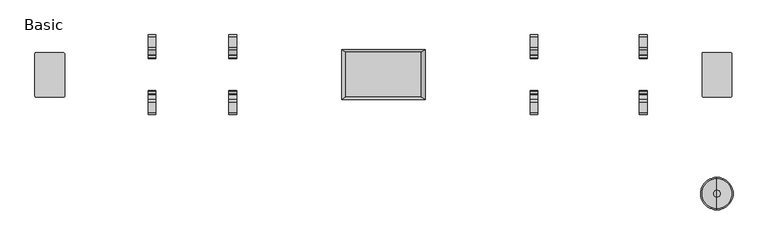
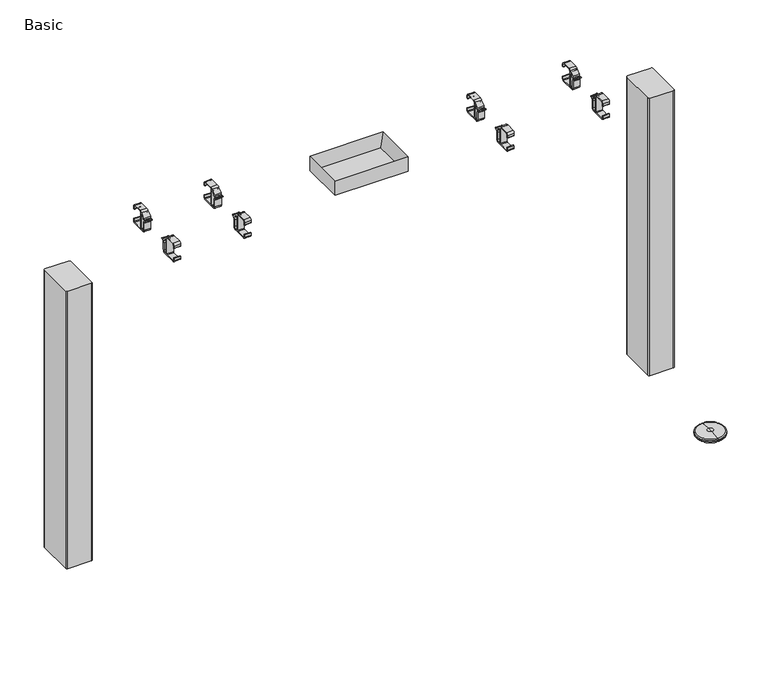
"""IFC4 building model written with IfcOpenShell, lengths in millimetres: furniture geometry, Steelcase Turnstone - Bivi - T Base : Basic."""

from ifc_helpers import new_model, si_unit, point, frame, frame_2d, origin, place, context, project, spatial, polyline, circle_curve, ellipse_curve, trimmed, segment, composite_curve, outline, extrude, faceted_brep, source, transform, mapped, element, save
from ifc_brep_helpers import plane_surface, cylinder_surface, revolved_surface, advanced_brep


def basic_1a66a6b6(model_context):
    return source(origin(), model_context, "Body", "SolidModel", [
        extrude(outline(composite_curve([segment(trimmed(circle_curve(frame_2d((524.0941449, -139.8062192)), 2.9999955), [point((527.0941404, -139.8062192))], [point((524.0941476, -142.8062147))], False, "CARTESIAN"), True, "CONTINUOUS"), segment(polyline([(524.0941476, -142.8062147), (470.2123335, -142.8062147)]), True, "CONTINUOUS"), segment(trimmed(circle_curve(frame_2d((470.2123308, -139.8062267)), 2.9999881), [point((470.2123335, -142.8062147))], [point((467.2123427, -139.8062267))], False, "CARTESIAN"), True, "CONTINUOUS"), segment(polyline([(467.2123427, -139.8062267), (467.2123427, -55.8062406)]), True, "CONTINUOUS"), segment(trimmed(circle_curve(frame_2d((470.2123507, -55.8062406)), 3.0000079), [point((467.2123427, -55.8062406))], [point((470.2123441, -52.8062327))], False, "CARTESIAN"), True, "CONTINUOUS"), segment(polyline([(470.2123441, -52.8062327), (524.094164, -52.8062327)]), True, "CONTINUOUS"), segment(trimmed(circle_curve(frame_2d((524.094164, -55.8062091)), 2.9999764), [point((524.094164, -52.8062327))], [point((527.0941404, -55.8062091))], False, "CARTESIAN"), True, "CONTINUOUS"), segment(polyline([(527.0941404, -55.8062091), (527.0941404, -139.8062192)]), True, "CONTINUOUS")], self_intersect=False)), frame((0.0, 0.0, 32.9997018), z_axis=(0.0, 0.0, 1.0), x_axis=(1.0, 0.0, 0.0)), (0.0, 0.0, 1.0), 673.400907),
        extrude(outline(composite_curve([segment(polyline([(-871.3931554, -140.227344), (-871.3931508, -55.5044158)]), True, "CONTINUOUS"), segment(trimmed(circle_curve(frame_2d((-868.6949196, -55.5044158)), 2.6982312), [point((-871.3931508, -55.5044158))], [point((-868.6949196, -52.8061846))], False, "CARTESIAN"), True, "CONTINUOUS"), segment(polyline([(-868.6949196, -52.8061846), (-815.7662966, -52.8061846)]), True, "CONTINUOUS"), segment(trimmed(circle_curve(frame_2d((-815.7662966, -57.1799025)), 4.3737179), [point((-815.7662966, -52.8061846))], [point((-811.3925787, -57.1799025))], False, "CARTESIAN"), True, "CONTINUOUS"), segment(polyline([(-811.3925787, -57.1799025), (-811.3925787, -140.352824)]), True, "CONTINUOUS"), segment(trimmed(circle_curve(frame_2d((-813.9932707, -140.2011003)), 2.605114), [point((-811.3925787, -140.352824))], [point((-813.9932707, -142.8062143))], False, "CARTESIAN"), True, "CONTINUOUS"), segment(polyline([(-813.9932707, -142.8062143), (-868.8142851, -142.8062143)]), True, "CONTINUOUS"), segment(trimmed(circle_curve(frame_2d((-868.8142851, -140.227344)), 2.5788703), [point((-868.8142851, -142.8062143))], [point((-871.3931554, -140.227344))], False, "CARTESIAN"), True, "CONTINUOUS")], self_intersect=False)), frame((0.0, 0.0, 32.9997018), z_axis=(0.0, 0.0, 1.0), x_axis=(1.0, 0.0, 0.0)), (0.0, 0.0, 1.0), 673.400907),
        extrude(outline(composite_curve([segment(trimmed(circle_curve(frame_2d((-65.7391624, 742.1239361)), 6.2415612), [point((-59.4976013, 742.1239361))], [point((-64.5659326, 748.2542393))], True, "CARTESIAN"), True, "CONTINUOUS"), segment(trimmed(circle_curve(frame_2d((-64.3721846, 749.2666017)), 1.0307357), [point((-64.5659326, 748.2542393))], [point((-64.1869392, 750.2805545))], False, "CARTESIAN"), True, "CONTINUOUS"), segment(trimmed(circle_curve(frame_2d((-65.6771233, 742.1239361)), 8.2916266), [point((-64.1869392, 750.2805545))], [point((-57.3854967, 742.1239361))], False, "CARTESIAN"), True, "CONTINUOUS"), segment(polyline([(-57.3854967, 742.1239361), (-57.3854967, 725.3624107)]), True, "CONTINUOUS"), segment(trimmed(circle_curve(frame_2d((-53.4972048, 725.3624107)), 3.8882919), [point((-57.3854967, 725.3624107))], [point((-53.4414787, 721.4745182))], True, "CARTESIAN"), True, "CONTINUOUS"), segment(polyline([(-53.4414787, 721.4745182), (-48.5753711, 721.4745182)]), True, "CONTINUOUS"), segment(trimmed(circle_curve(frame_2d((-48.5753711, 722.558435)), 1.0839168), [point((-48.5753711, 721.4745182))], [point((-47.4914543, 722.558435))], True, "CARTESIAN"), True, "CONTINUOUS"), segment(polyline([(-47.4914543, 722.558435), (-47.4914543, 756.2135585)]), True, "CONTINUOUS"), segment(trimmed(circle_curve(frame_2d((-49.0315964, 756.2135585)), 1.5401421), [point((-47.4914543, 756.2135585))], [point((-50.0681586, 757.3526706))], True, "CARTESIAN"), True, "CONTINUOUS"), segment(polyline([(-50.0681586, 757.3526706), (-54.4475369, 753.3675508)]), True, "CONTINUOUS"), segment(trimmed(circle_curve(frame_2d((-53.8610141, 752.7230017)), 0.8714657), [point((-54.4475369, 753.3675508))], [point((-54.6447876, 752.342014))], True, "CARTESIAN"), True, "CONTINUOUS"), segment(trimmed(circle_curve(frame_2d((-56.5369304, 751.4222544)), 2.1038446), [point((-54.6447876, 752.342014))], [point((-57.8009025, 753.1040798))], False, "CARTESIAN"), True, "CONTINUOUS"), segment(polyline([(-57.8009025, 753.1040798), (-48.4315057, 761.5182067)]), True, "CONTINUOUS"), segment(trimmed(circle_curve(frame_2d((-43.0316889, 755.5053397)), 8.0816206), [point((-48.4315057, 761.5182067))], [point((-43.0316889, 763.5869603))], False, "CARTESIAN"), True, "CONTINUOUS"), segment(polyline([(-43.0316889, 763.5869603), (-21.684555, 763.5869603)]), True, "CONTINUOUS"), segment(trimmed(circle_curve(frame_2d((-22.1935929, 758.8624493)), 4.7518548), [point((-21.684555, 763.5869603))], [point((-17.4417381, 758.8624493))], False, "CARTESIAN"), True, "CONTINUOUS"), segment(polyline([(-17.4417381, 758.8624493), (-17.4417381, 753.5063472)]), True, "CONTINUOUS"), segment(trimmed(circle_curve(frame_2d((-18.5067894, 753.5063472)), 1.0650513), [point((-17.4417381, 753.5063472))], [point((-19.5718406, 753.5063472))], False, "CARTESIAN"), True, "CONTINUOUS"), segment(polyline([(-19.5718406, 753.5063472), (-19.5718406, 759.3038862)]), True, "CONTINUOUS"), segment(trimmed(circle_curve(frame_2d((-22.6679544, 759.3038862)), 3.0961138), [point((-19.5718406, 759.3038862))], [point((-22.6679544, 762.4))], True, "CARTESIAN"), True, "CONTINUOUS"), segment(polyline([(-22.6679544, 762.4), (-43.0035831, 762.4)]), True, "CONTINUOUS"), segment(trimmed(circle_curve(frame_2d((-43.0035831, 759.897389)), 2.502611), [point((-43.0035831, 762.4))], [point((-45.5061941, 759.897389))], True, "CARTESIAN"), True, "CONTINUOUS"), segment(polyline([(-45.5061941, 759.897389), (-45.5061941, 722.9613964)]), True, "CONTINUOUS"), segment(trimmed(circle_curve(frame_2d((-44.0445082, 722.9613964)), 1.4616859), [point((-45.5061941, 722.9613964))], [point((-44.0445082, 721.4997105))], True, "CARTESIAN"), True, "CONTINUOUS"), segment(polyline([(-44.0445082, 721.4997105), (-21.0231187, 721.4997105)]), True, "CONTINUOUS"), segment(trimmed(circle_curve(frame_2d((-21.0231187, 722.9509885)), 1.451278), [point((-21.0231187, 721.4997105))], [point((-19.5718406, 722.9509885))], True, "CARTESIAN"), True, "CONTINUOUS"), segment(polyline([(-19.5718406, 722.9509885), (-19.5718406, 729.2789837), (-17.4417381, 729.2789837), (-17.4417381, 723.3602118)]), True, "CONTINUOUS"), segment(trimmed(circle_curve(frame_2d((-21.439512, 723.3602118)), 3.997774), [point((-17.4417381, 723.3602118))], [point((-21.439512, 719.3624378))], False, "CARTESIAN"), True, "CONTINUOUS"), segment(polyline([(-21.439512, 719.3624378), (-53.4414787, 719.3624378)]), True, "CONTINUOUS"), segment(trimmed(circle_curve(frame_2d((-53.4414787, 725.4188231)), 6.0563853), [point((-53.4414787, 719.3624378))], [point((-59.4976013, 725.3624107))], False, "CARTESIAN"), True, "CONTINUOUS"), segment(polyline([(-59.4976013, 725.3624107), (-59.4976013, 742.1239361)]), True, "CONTINUOUS")], self_intersect=False)), frame((-644.2435707, 0.0, 0.0), z_axis=(1.0, 0.0, 0.0), x_axis=(0.0, 1.0, 0.0)), (0.0, 0.0, 1.0), 15.24),
        extrude(outline(composite_curve([segment(polyline([(-135.6005693, 742.1239361), (-135.6005693, 725.3624107)]), True, "CONTINUOUS"), segment(trimmed(circle_curve(frame_2d((-141.6566919, 725.4188231)), 6.0563853), [point((-135.6005693, 725.3624107))], [point((-141.6566919, 719.3624378))], False, "CARTESIAN"), True, "CONTINUOUS"), segment(polyline([(-141.6566919, 719.3624378), (-173.6586586, 719.3624378)]), True, "CONTINUOUS"), segment(trimmed(circle_curve(frame_2d((-173.6586586, 723.3602118)), 3.997774), [point((-173.6586586, 719.3624378))], [point((-177.6564325, 723.3602118))], False, "CARTESIAN"), True, "CONTINUOUS"), segment(polyline([(-177.6564325, 723.3602118), (-177.6564325, 729.2789837), (-175.52633, 729.2789837), (-175.52633, 722.9509885)]), True, "CONTINUOUS"), segment(trimmed(circle_curve(frame_2d((-174.0750519, 722.9509885)), 1.451278), [point((-175.52633, 722.9509885))], [point((-174.0750519, 721.4997105))], True, "CARTESIAN"), True, "CONTINUOUS"), segment(polyline([(-174.0750519, 721.4997105), (-151.0536624, 721.4997105)]), True, "CONTINUOUS"), segment(trimmed(circle_curve(frame_2d((-151.0536624, 722.9613964)), 1.4616859), [point((-151.0536624, 721.4997105))], [point((-149.5919765, 722.9613964))], True, "CARTESIAN"), True, "CONTINUOUS"), segment(polyline([(-149.5919765, 722.9613964), (-149.5919765, 759.897389)]), True, "CONTINUOUS"), segment(trimmed(circle_curve(frame_2d((-152.0945875, 759.897389)), 2.502611), [point((-149.5919765, 759.897389))], [point((-152.0945875, 762.4))], True, "CARTESIAN"), True, "CONTINUOUS"), segment(polyline([(-152.0945875, 762.4), (-172.4302162, 762.4)]), True, "CONTINUOUS"), segment(trimmed(circle_curve(frame_2d((-172.4302162, 759.3038862)), 3.0961138), [point((-172.4302162, 762.4))], [point((-175.52633, 759.3038862))], True, "CARTESIAN"), True, "CONTINUOUS"), segment(polyline([(-175.52633, 759.3038862), (-175.52633, 753.5063472)]), True, "CONTINUOUS"), segment(trimmed(circle_curve(frame_2d((-176.5913812, 753.5063472)), 1.0650513), [point((-175.52633, 753.5063472))], [point((-177.6564325, 753.5063472))], False, "CARTESIAN"), True, "CONTINUOUS"), segment(polyline([(-177.6564325, 753.5063472), (-177.6564325, 758.8624493)]), True, "CONTINUOUS"), segment(trimmed(circle_curve(frame_2d((-172.9045777, 758.8624493)), 4.7518548), [point((-177.6564325, 758.8624493))], [point((-173.4136156, 763.5869603))], False, "CARTESIAN"), True, "CONTINUOUS"), segment(polyline([(-173.4136156, 763.5869603), (-152.0664817, 763.5869603)]), True, "CONTINUOUS"), segment(trimmed(circle_curve(frame_2d((-152.0664817, 755.5053397)), 8.0816206), [point((-152.0664817, 763.5869603))], [point((-146.6666649, 761.5182067))], False, "CARTESIAN"), True, "CONTINUOUS"), segment(polyline([(-146.6666649, 761.5182067), (-137.2972681, 753.1040798)]), True, "CONTINUOUS"), segment(trimmed(circle_curve(frame_2d((-138.5612402, 751.4222544)), 2.1038446), [point((-137.2972681, 753.1040798))], [point((-140.453383, 752.342014))], False, "CARTESIAN"), True, "CONTINUOUS"), segment(trimmed(circle_curve(frame_2d((-141.2371565, 752.7230017)), 0.8714657), [point((-140.453383, 752.342014))], [point((-140.6506337, 753.3675508))], True, "CARTESIAN"), True, "CONTINUOUS"), segment(polyline([(-140.6506337, 753.3675508), (-145.030012, 757.3526706)]), True, "CONTINUOUS"), segment(trimmed(circle_curve(frame_2d((-146.0665742, 756.2135585)), 1.5401421), [point((-145.030012, 757.3526706))], [point((-147.6067163, 756.2135585))], True, "CARTESIAN"), True, "CONTINUOUS"), segment(polyline([(-147.6067163, 756.2135585), (-147.6067163, 722.558435)]), True, "CONTINUOUS"), segment(trimmed(circle_curve(frame_2d((-146.5227995, 722.558435)), 1.0839168), [point((-147.6067163, 722.558435))], [point((-146.5227995, 721.4745182))], True, "CARTESIAN"), True, "CONTINUOUS"), segment(polyline([(-146.5227995, 721.4745182), (-141.6566919, 721.4745182)]), True, "CONTINUOUS"), segment(trimmed(circle_curve(frame_2d((-141.6009658, 725.3624107)), 3.8882919), [point((-141.6566919, 721.4745182))], [point((-137.7126739, 725.3624107))], True, "CARTESIAN"), True, "CONTINUOUS"), segment(polyline([(-137.7126739, 725.3624107), (-137.7126739, 742.1239361)]), True, "CONTINUOUS"), segment(trimmed(circle_curve(frame_2d((-129.4210473, 742.1239361)), 8.2916266), [point((-137.7126739, 742.1239361))], [point((-130.9112314, 750.2805545))], False, "CARTESIAN"), True, "CONTINUOUS"), segment(trimmed(circle_curve(frame_2d((-130.725986, 749.2666017)), 1.0307357), [point((-130.9112314, 750.2805545))], [point((-130.532238, 748.2542393))], False, "CARTESIAN"), True, "CONTINUOUS"), segment(trimmed(circle_curve(frame_2d((-129.3590082, 742.1239361)), 6.2415612), [point((-130.532238, 748.2542393))], [point((-135.6005693, 742.1239361))], True, "CARTESIAN"), True, "CONTINUOUS")], self_intersect=False)), frame((-644.2435707, 0.0, 0.0), z_axis=(1.0, 0.0, 0.0), x_axis=(0.0, 1.0, 0.0)), (0.0, 0.0, 1.0), 15.24),
        extrude(outline(composite_curve([segment(trimmed(circle_curve(frame_2d((-65.7391624, 742.1239361)), 6.2415612), [point((-59.4976013, 742.1239361))], [point((-64.5659326, 748.2542393))], True, "CARTESIAN"), True, "CONTINUOUS"), segment(trimmed(circle_curve(frame_2d((-64.3721846, 749.2666017)), 1.0307357), [point((-64.5659326, 748.2542393))], [point((-64.1869392, 750.2805545))], False, "CARTESIAN"), True, "CONTINUOUS"), segment(trimmed(circle_curve(frame_2d((-65.6771233, 742.1239361)), 8.2916266), [point((-64.1869392, 750.2805545))], [point((-57.3854967, 742.1239361))], False, "CARTESIAN"), True, "CONTINUOUS"), segment(polyline([(-57.3854967, 742.1239361), (-57.3854967, 725.3624107)]), True, "CONTINUOUS"), segment(trimmed(circle_curve(frame_2d((-53.4972048, 725.3624107)), 3.8882919), [point((-57.3854967, 725.3624107))], [point((-53.4414787, 721.4745182))], True, "CARTESIAN"), True, "CONTINUOUS"), segment(polyline([(-53.4414787, 721.4745182), (-48.5753711, 721.4745182)]), True, "CONTINUOUS"), segment(trimmed(circle_curve(frame_2d((-48.5753711, 722.558435)), 1.0839168), [point((-48.5753711, 721.4745182))], [point((-47.4914543, 722.558435))], True, "CARTESIAN"), True, "CONTINUOUS"), segment(polyline([(-47.4914543, 722.558435), (-47.4914543, 756.2135585)]), True, "CONTINUOUS"), segment(trimmed(circle_curve(frame_2d((-49.0315964, 756.2135585)), 1.5401421), [point((-47.4914543, 756.2135585))], [point((-50.0681586, 757.3526706))], True, "CARTESIAN"), True, "CONTINUOUS"), segment(polyline([(-50.0681586, 757.3526706), (-54.4475369, 753.3675508)]), True, "CONTINUOUS"), segment(trimmed(circle_curve(frame_2d((-53.8610141, 752.7230017)), 0.8714657), [point((-54.4475369, 753.3675508))], [point((-54.6447876, 752.342014))], True, "CARTESIAN"), True, "CONTINUOUS"), segment(trimmed(circle_curve(frame_2d((-56.5369304, 751.4222544)), 2.1038446), [point((-54.6447876, 752.342014))], [point((-57.8009025, 753.1040798))], False, "CARTESIAN"), True, "CONTINUOUS"), segment(polyline([(-57.8009025, 753.1040798), (-48.4315057, 761.5182067)]), True, "CONTINUOUS"), segment(trimmed(circle_curve(frame_2d((-43.0316889, 755.5053397)), 8.0816206), [point((-48.4315057, 761.5182067))], [point((-43.0316889, 763.5869603))], False, "CARTESIAN"), True, "CONTINUOUS"), segment(polyline([(-43.0316889, 763.5869603), (-21.684555, 763.5869603)]), True, "CONTINUOUS"), segment(trimmed(circle_curve(frame_2d((-22.1935929, 758.8624493)), 4.7518548), [point((-21.684555, 763.5869603))], [point((-17.4417381, 758.8624493))], False, "CARTESIAN"), True, "CONTINUOUS"), segment(polyline([(-17.4417381, 758.8624493), (-17.4417381, 753.5063472)]), True, "CONTINUOUS"), segment(trimmed(circle_curve(frame_2d((-18.5067894, 753.5063472)), 1.0650513), [point((-17.4417381, 753.5063472))], [point((-19.5718406, 753.5063472))], False, "CARTESIAN"), True, "CONTINUOUS"), segment(polyline([(-19.5718406, 753.5063472), (-19.5718406, 759.3038862)]), True, "CONTINUOUS"), segment(trimmed(circle_curve(frame_2d((-22.6679544, 759.3038862)), 3.0961138), [point((-19.5718406, 759.3038862))], [point((-22.6679544, 762.4))], True, "CARTESIAN"), True, "CONTINUOUS"), segment(polyline([(-22.6679544, 762.4), (-43.0035831, 762.4)]), True, "CONTINUOUS"), segment(trimmed(circle_curve(frame_2d((-43.0035831, 759.897389)), 2.502611), [point((-43.0035831, 762.4))], [point((-45.5061941, 759.897389))], True, "CARTESIAN"), True, "CONTINUOUS"), segment(polyline([(-45.5061941, 759.897389), (-45.5061941, 722.9613964)]), True, "CONTINUOUS"), segment(trimmed(circle_curve(frame_2d((-44.0445082, 722.9613964)), 1.4616859), [point((-45.5061941, 722.9613964))], [point((-44.0445082, 721.4997105))], True, "CARTESIAN"), True, "CONTINUOUS"), segment(polyline([(-44.0445082, 721.4997105), (-21.0231187, 721.4997105)]), True, "CONTINUOUS"), segment(trimmed(circle_curve(frame_2d((-21.0231187, 722.9509885)), 1.451278), [point((-21.0231187, 721.4997105))], [point((-19.5718406, 722.9509885))], True, "CARTESIAN"), True, "CONTINUOUS"), segment(polyline([(-19.5718406, 722.9509885), (-19.5718406, 729.2789837), (-17.4417381, 729.2789837), (-17.4417381, 723.3602118)]), True, "CONTINUOUS"), segment(trimmed(circle_curve(frame_2d((-21.439512, 723.3602118)), 3.997774), [point((-17.4417381, 723.3602118))], [point((-21.439512, 719.3624378))], False, "CARTESIAN"), True, "CONTINUOUS"), segment(polyline([(-21.439512, 719.3624378), (-53.4414787, 719.3624378)]), True, "CONTINUOUS"), segment(trimmed(circle_curve(frame_2d((-53.4414787, 725.4188231)), 6.0563853), [point((-53.4414787, 719.3624378))], [point((-59.4976013, 725.3624107))], False, "CARTESIAN"), True, "CONTINUOUS"), segment(polyline([(-59.4976013, 725.3624107), (-59.4976013, 742.1239361)]), True, "CONTINUOUS")], self_intersect=False)), frame((-481.9950023, 0.0, 0.0), z_axis=(1.0, 0.0, 0.0), x_axis=(0.0, 1.0, 0.0)), (0.0, 0.0, 1.0), 15.24),
        extrude(outline(composite_curve([segment(polyline([(-135.6005693, 742.1239361), (-135.6005693, 725.3624107)]), True, "CONTINUOUS"), segment(trimmed(circle_curve(frame_2d((-141.6566919, 725.4188231)), 6.0563853), [point((-135.6005693, 725.3624107))], [point((-141.6566919, 719.3624378))], False, "CARTESIAN"), True, "CONTINUOUS"), segment(polyline([(-141.6566919, 719.3624378), (-173.6586586, 719.3624378)]), True, "CONTINUOUS"), segment(trimmed(circle_curve(frame_2d((-173.6586586, 723.3602118)), 3.997774), [point((-173.6586586, 719.3624378))], [point((-177.6564325, 723.3602118))], False, "CARTESIAN"), True, "CONTINUOUS"), segment(polyline([(-177.6564325, 723.3602118), (-177.6564325, 729.2789837), (-175.52633, 729.2789837), (-175.52633, 722.9509885)]), True, "CONTINUOUS"), segment(trimmed(circle_curve(frame_2d((-174.0750519, 722.9509885)), 1.451278), [point((-175.52633, 722.9509885))], [point((-174.0750519, 721.4997105))], True, "CARTESIAN"), True, "CONTINUOUS"), segment(polyline([(-174.0750519, 721.4997105), (-151.0536624, 721.4997105)]), True, "CONTINUOUS"), segment(trimmed(circle_curve(frame_2d((-151.0536624, 722.9613964)), 1.4616859), [point((-151.0536624, 721.4997105))], [point((-149.5919765, 722.9613964))], True, "CARTESIAN"), True, "CONTINUOUS"), segment(polyline([(-149.5919765, 722.9613964), (-149.5919765, 759.897389)]), True, "CONTINUOUS"), segment(trimmed(circle_curve(frame_2d((-152.0945875, 759.897389)), 2.502611), [point((-149.5919765, 759.897389))], [point((-152.0945875, 762.4))], True, "CARTESIAN"), True, "CONTINUOUS"), segment(polyline([(-152.0945875, 762.4), (-172.4302162, 762.4)]), True, "CONTINUOUS"), segment(trimmed(circle_curve(frame_2d((-172.4302162, 759.3038862)), 3.0961138), [point((-172.4302162, 762.4))], [point((-175.52633, 759.3038862))], True, "CARTESIAN"), True, "CONTINUOUS"), segment(polyline([(-175.52633, 759.3038862), (-175.52633, 753.5063472)]), True, "CONTINUOUS"), segment(trimmed(circle_curve(frame_2d((-176.5913812, 753.5063472)), 1.0650513), [point((-175.52633, 753.5063472))], [point((-177.6564325, 753.5063472))], False, "CARTESIAN"), True, "CONTINUOUS"), segment(polyline([(-177.6564325, 753.5063472), (-177.6564325, 758.8624493)]), True, "CONTINUOUS"), segment(trimmed(circle_curve(frame_2d((-172.9045777, 758.8624493)), 4.7518548), [point((-177.6564325, 758.8624493))], [point((-173.4136156, 763.5869603))], False, "CARTESIAN"), True, "CONTINUOUS"), segment(polyline([(-173.4136156, 763.5869603), (-152.0664817, 763.5869603)]), True, "CONTINUOUS"), segment(trimmed(circle_curve(frame_2d((-152.0664817, 755.5053397)), 8.0816206), [point((-152.0664817, 763.5869603))], [point((-146.6666649, 761.5182067))], False, "CARTESIAN"), True, "CONTINUOUS"), segment(polyline([(-146.6666649, 761.5182067), (-137.2972681, 753.1040798)]), True, "CONTINUOUS"), segment(trimmed(circle_curve(frame_2d((-138.5612402, 751.4222544)), 2.1038446), [point((-137.2972681, 753.1040798))], [point((-140.453383, 752.342014))], False, "CARTESIAN"), True, "CONTINUOUS"), segment(trimmed(circle_curve(frame_2d((-141.2371565, 752.7230017)), 0.8714657), [point((-140.453383, 752.342014))], [point((-140.6506337, 753.3675508))], True, "CARTESIAN"), True, "CONTINUOUS"), segment(polyline([(-140.6506337, 753.3675508), (-145.030012, 757.3526706)]), True, "CONTINUOUS"), segment(trimmed(circle_curve(frame_2d((-146.0665742, 756.2135585)), 1.5401421), [point((-145.030012, 757.3526706))], [point((-147.6067163, 756.2135585))], True, "CARTESIAN"), True, "CONTINUOUS"), segment(polyline([(-147.6067163, 756.2135585), (-147.6067163, 722.558435)]), True, "CONTINUOUS"), segment(trimmed(circle_curve(frame_2d((-146.5227995, 722.558435)), 1.0839168), [point((-147.6067163, 722.558435))], [point((-146.5227995, 721.4745182))], True, "CARTESIAN"), True, "CONTINUOUS"), segment(polyline([(-146.5227995, 721.4745182), (-141.6566919, 721.4745182)]), True, "CONTINUOUS"), segment(trimmed(circle_curve(frame_2d((-141.6009658, 725.3624107)), 3.8882919), [point((-141.6566919, 721.4745182))], [point((-137.7126739, 725.3624107))], True, "CARTESIAN"), True, "CONTINUOUS"), segment(polyline([(-137.7126739, 725.3624107), (-137.7126739, 742.1239361)]), True, "CONTINUOUS"), segment(trimmed(circle_curve(frame_2d((-129.4210473, 742.1239361)), 8.2916266), [point((-137.7126739, 742.1239361))], [point((-130.9112314, 750.2805545))], False, "CARTESIAN"), True, "CONTINUOUS"), segment(trimmed(circle_curve(frame_2d((-130.725986, 749.2666017)), 1.0307357), [point((-130.9112314, 750.2805545))], [point((-130.532238, 748.2542393))], False, "CARTESIAN"), True, "CONTINUOUS"), segment(trimmed(circle_curve(frame_2d((-129.3590082, 742.1239361)), 6.2415612), [point((-130.532238, 748.2542393))], [point((-135.6005693, 742.1239361))], True, "CARTESIAN"), True, "CONTINUOUS")], self_intersect=False)), frame((-481.9950023, 0.0, 0.0), z_axis=(1.0, 0.0, 0.0), x_axis=(0.0, 1.0, 0.0)), (0.0, 0.0, 1.0), 15.24),
        extrude(outline(composite_curve([segment(trimmed(circle_curve(frame_2d((-65.7391624, 742.1239361)), 6.2415612), [point((-59.4976013, 742.1239361))], [point((-64.5659326, 748.2542393))], True, "CARTESIAN"), True, "CONTINUOUS"), segment(trimmed(circle_curve(frame_2d((-64.3721846, 749.2666017)), 1.0307357), [point((-64.5659326, 748.2542393))], [point((-64.1869392, 750.2805545))], False, "CARTESIAN"), True, "CONTINUOUS"), segment(trimmed(circle_curve(frame_2d((-65.6771233, 742.1239361)), 8.2916266), [point((-64.1869392, 750.2805545))], [point((-57.3854967, 742.1239361))], False, "CARTESIAN"), True, "CONTINUOUS"), segment(polyline([(-57.3854967, 742.1239361), (-57.3854967, 725.3624107)]), True, "CONTINUOUS"), segment(trimmed(circle_curve(frame_2d((-53.4972048, 725.3624107)), 3.8882919), [point((-57.3854967, 725.3624107))], [point((-53.4414787, 721.4745182))], True, "CARTESIAN"), True, "CONTINUOUS"), segment(polyline([(-53.4414787, 721.4745182), (-48.5753711, 721.4745182)]), True, "CONTINUOUS"), segment(trimmed(circle_curve(frame_2d((-48.5753711, 722.558435)), 1.0839168), [point((-48.5753711, 721.4745182))], [point((-47.4914543, 722.558435))], True, "CARTESIAN"), True, "CONTINUOUS"), segment(polyline([(-47.4914543, 722.558435), (-47.4914543, 756.2135585)]), True, "CONTINUOUS"), segment(trimmed(circle_curve(frame_2d((-49.0315964, 756.2135585)), 1.5401421), [point((-47.4914543, 756.2135585))], [point((-50.0681586, 757.3526706))], True, "CARTESIAN"), True, "CONTINUOUS"), segment(polyline([(-50.0681586, 757.3526706), (-54.4475369, 753.3675508)]), True, "CONTINUOUS"), segment(trimmed(circle_curve(frame_2d((-53.8610141, 752.7230017)), 0.8714657), [point((-54.4475369, 753.3675508))], [point((-54.6447876, 752.342014))], True, "CARTESIAN"), True, "CONTINUOUS"), segment(trimmed(circle_curve(frame_2d((-56.5369304, 751.4222544)), 2.1038446), [point((-54.6447876, 752.342014))], [point((-57.8009025, 753.1040798))], False, "CARTESIAN"), True, "CONTINUOUS"), segment(polyline([(-57.8009025, 753.1040798), (-48.4315057, 761.5182067)]), True, "CONTINUOUS"), segment(trimmed(circle_curve(frame_2d((-43.0316889, 755.5053397)), 8.0816206), [point((-48.4315057, 761.5182067))], [point((-43.0316889, 763.5869603))], False, "CARTESIAN"), True, "CONTINUOUS"), segment(polyline([(-43.0316889, 763.5869603), (-21.684555, 763.5869603)]), True, "CONTINUOUS"), segment(trimmed(circle_curve(frame_2d((-22.1935929, 758.8624493)), 4.7518548), [point((-21.684555, 763.5869603))], [point((-17.4417381, 758.8624493))], False, "CARTESIAN"), True, "CONTINUOUS"), segment(polyline([(-17.4417381, 758.8624493), (-17.4417381, 753.5063472)]), True, "CONTINUOUS"), segment(trimmed(circle_curve(frame_2d((-18.5067894, 753.5063472)), 1.0650513), [point((-17.4417381, 753.5063472))], [point((-19.5718406, 753.5063472))], False, "CARTESIAN"), True, "CONTINUOUS"), segment(polyline([(-19.5718406, 753.5063472), (-19.5718406, 759.3038862)]), True, "CONTINUOUS"), segment(trimmed(circle_curve(frame_2d((-22.6679544, 759.3038862)), 3.0961138), [point((-19.5718406, 759.3038862))], [point((-22.6679544, 762.4))], True, "CARTESIAN"), True, "CONTINUOUS"), segment(polyline([(-22.6679544, 762.4), (-43.0035831, 762.4)]), True, "CONTINUOUS"), segment(trimmed(circle_curve(frame_2d((-43.0035831, 759.897389)), 2.502611), [point((-43.0035831, 762.4))], [point((-45.5061941, 759.897389))], True, "CARTESIAN"), True, "CONTINUOUS"), segment(polyline([(-45.5061941, 759.897389), (-45.5061941, 722.9613964)]), True, "CONTINUOUS"), segment(trimmed(circle_curve(frame_2d((-44.0445082, 722.9613964)), 1.4616859), [point((-45.5061941, 722.9613964))], [point((-44.0445082, 721.4997105))], True, "CARTESIAN"), True, "CONTINUOUS"), segment(polyline([(-44.0445082, 721.4997105), (-21.0231187, 721.4997105)]), True, "CONTINUOUS"), segment(trimmed(circle_curve(frame_2d((-21.0231187, 722.9509885)), 1.451278), [point((-21.0231187, 721.4997105))], [point((-19.5718406, 722.9509885))], True, "CARTESIAN"), True, "CONTINUOUS"), segment(polyline([(-19.5718406, 722.9509885), (-19.5718406, 729.2789837), (-17.4417381, 729.2789837), (-17.4417381, 723.3602118)]), True, "CONTINUOUS"), segment(trimmed(circle_curve(frame_2d((-21.439512, 723.3602118)), 3.997774), [point((-17.4417381, 723.3602118))], [point((-21.439512, 719.3624378))], False, "CARTESIAN"), True, "CONTINUOUS"), segment(polyline([(-21.439512, 719.3624378), (-53.4414787, 719.3624378)]), True, "CONTINUOUS"), segment(trimmed(circle_curve(frame_2d((-53.4414787, 725.4188231)), 6.0563853), [point((-53.4414787, 719.3624378))], [point((-59.4976013, 725.3624107))], False, "CARTESIAN"), True, "CONTINUOUS"), segment(polyline([(-59.4976013, 725.3624107), (-59.4976013, 742.1239361)]), True, "CONTINUOUS")], self_intersect=False)), frame((341.7131648, 0.0, 0.0), z_axis=(1.0, 0.0, 0.0), x_axis=(0.0, 1.0, 0.0)), (0.0, 0.0, 1.0), 15.24),
        extrude(outline(composite_curve([segment(polyline([(-135.6005693, 742.1239361), (-135.6005693, 725.3624107)]), True, "CONTINUOUS"), segment(trimmed(circle_curve(frame_2d((-141.6566919, 725.4188231)), 6.0563853), [point((-135.6005693, 725.3624107))], [point((-141.6566919, 719.3624378))], False, "CARTESIAN"), True, "CONTINUOUS"), segment(polyline([(-141.6566919, 719.3624378), (-173.6586586, 719.3624378)]), True, "CONTINUOUS"), segment(trimmed(circle_curve(frame_2d((-173.6586586, 723.3602118)), 3.997774), [point((-173.6586586, 719.3624378))], [point((-177.6564325, 723.3602118))], False, "CARTESIAN"), True, "CONTINUOUS"), segment(polyline([(-177.6564325, 723.3602118), (-177.6564325, 729.2789837), (-175.52633, 729.2789837), (-175.52633, 722.9509885)]), True, "CONTINUOUS"), segment(trimmed(circle_curve(frame_2d((-174.0750519, 722.9509885)), 1.451278), [point((-175.52633, 722.9509885))], [point((-174.0750519, 721.4997105))], True, "CARTESIAN"), True, "CONTINUOUS"), segment(polyline([(-174.0750519, 721.4997105), (-151.0536624, 721.4997105)]), True, "CONTINUOUS"), segment(trimmed(circle_curve(frame_2d((-151.0536624, 722.9613964)), 1.4616859), [point((-151.0536624, 721.4997105))], [point((-149.5919765, 722.9613964))], True, "CARTESIAN"), True, "CONTINUOUS"), segment(polyline([(-149.5919765, 722.9613964), (-149.5919765, 759.897389)]), True, "CONTINUOUS"), segment(trimmed(circle_curve(frame_2d((-152.0945875, 759.897389)), 2.502611), [point((-149.5919765, 759.897389))], [point((-152.0945875, 762.4))], True, "CARTESIAN"), True, "CONTINUOUS"), segment(polyline([(-152.0945875, 762.4), (-172.4302162, 762.4)]), True, "CONTINUOUS"), segment(trimmed(circle_curve(frame_2d((-172.4302162, 759.3038862)), 3.0961138), [point((-172.4302162, 762.4))], [point((-175.52633, 759.3038862))], True, "CARTESIAN"), True, "CONTINUOUS"), segment(polyline([(-175.52633, 759.3038862), (-175.52633, 753.5063472)]), True, "CONTINUOUS"), segment(trimmed(circle_curve(frame_2d((-176.5913812, 753.5063472)), 1.0650513), [point((-175.52633, 753.5063472))], [point((-177.6564325, 753.5063472))], False, "CARTESIAN"), True, "CONTINUOUS"), segment(polyline([(-177.6564325, 753.5063472), (-177.6564325, 758.8624493)]), True, "CONTINUOUS"), segment(trimmed(circle_curve(frame_2d((-172.9045777, 758.8624493)), 4.7518548), [point((-177.6564325, 758.8624493))], [point((-173.4136156, 763.5869603))], False, "CARTESIAN"), True, "CONTINUOUS"), segment(polyline([(-173.4136156, 763.5869603), (-152.0664817, 763.5869603)]), True, "CONTINUOUS"), segment(trimmed(circle_curve(frame_2d((-152.0664817, 755.5053397)), 8.0816206), [point((-152.0664817, 763.5869603))], [point((-146.6666649, 761.5182067))], False, "CARTESIAN"), True, "CONTINUOUS"), segment(polyline([(-146.6666649, 761.5182067), (-137.2972681, 753.1040798)]), True, "CONTINUOUS"), segment(trimmed(circle_curve(frame_2d((-138.5612402, 751.4222544)), 2.1038446), [point((-137.2972681, 753.1040798))], [point((-140.453383, 752.342014))], False, "CARTESIAN"), True, "CONTINUOUS"), segment(trimmed(circle_curve(frame_2d((-141.2371565, 752.7230017)), 0.8714657), [point((-140.453383, 752.342014))], [point((-140.6506337, 753.3675508))], True, "CARTESIAN"), True, "CONTINUOUS"), segment(polyline([(-140.6506337, 753.3675508), (-145.030012, 757.3526706)]), True, "CONTINUOUS"), segment(trimmed(circle_curve(frame_2d((-146.0665742, 756.2135585)), 1.5401421), [point((-145.030012, 757.3526706))], [point((-147.6067163, 756.2135585))], True, "CARTESIAN"), True, "CONTINUOUS"), segment(polyline([(-147.6067163, 756.2135585), (-147.6067163, 722.558435)]), True, "CONTINUOUS"), segment(trimmed(circle_curve(frame_2d((-146.5227995, 722.558435)), 1.0839168), [point((-147.6067163, 722.558435))], [point((-146.5227995, 721.4745182))], True, "CARTESIAN"), True, "CONTINUOUS"), segment(polyline([(-146.5227995, 721.4745182), (-141.6566919, 721.4745182)]), True, "CONTINUOUS"), segment(trimmed(circle_curve(frame_2d((-141.6009658, 725.3624107)), 3.8882919), [point((-141.6566919, 721.4745182))], [point((-137.7126739, 725.3624107))], True, "CARTESIAN"), True, "CONTINUOUS"), segment(polyline([(-137.7126739, 725.3624107), (-137.7126739, 742.1239361)]), True, "CONTINUOUS"), segment(trimmed(circle_curve(frame_2d((-129.4210473, 742.1239361)), 8.2916266), [point((-137.7126739, 742.1239361))], [point((-130.9112314, 750.2805545))], False, "CARTESIAN"), True, "CONTINUOUS"), segment(trimmed(circle_curve(frame_2d((-130.725986, 749.2666017)), 1.0307357), [point((-130.9112314, 750.2805545))], [point((-130.532238, 748.2542393))], False, "CARTESIAN"), True, "CONTINUOUS"), segment(trimmed(circle_curve(frame_2d((-129.3590082, 742.1239361)), 6.2415612), [point((-130.532238, 748.2542393))], [point((-135.6005693, 742.1239361))], True, "CARTESIAN"), True, "CONTINUOUS")], self_intersect=False)), frame((341.7131648, 0.0, 0.0), z_axis=(1.0, 0.0, 0.0), x_axis=(0.0, 1.0, 0.0)), (0.0, 0.0, 1.0), 15.24),
        extrude(outline(composite_curve([segment(trimmed(circle_curve(frame_2d((-65.7391624, 742.1239361)), 6.2415612), [point((-59.4976013, 742.1239361))], [point((-64.5659326, 748.2542393))], True, "CARTESIAN"), True, "CONTINUOUS"), segment(trimmed(circle_curve(frame_2d((-64.3721846, 749.2666017)), 1.0307357), [point((-64.5659326, 748.2542393))], [point((-64.1869392, 750.2805545))], False, "CARTESIAN"), True, "CONTINUOUS"), segment(trimmed(circle_curve(frame_2d((-65.6771233, 742.1239361)), 8.2916266), [point((-64.1869392, 750.2805545))], [point((-57.3854967, 742.1239361))], False, "CARTESIAN"), True, "CONTINUOUS"), segment(polyline([(-57.3854967, 742.1239361), (-57.3854967, 725.3624107)]), True, "CONTINUOUS"), segment(trimmed(circle_curve(frame_2d((-53.4972048, 725.3624107)), 3.8882919), [point((-57.3854967, 725.3624107))], [point((-53.4414787, 721.4745182))], True, "CARTESIAN"), True, "CONTINUOUS"), segment(polyline([(-53.4414787, 721.4745182), (-48.5753711, 721.4745182)]), True, "CONTINUOUS"), segment(trimmed(circle_curve(frame_2d((-48.5753711, 722.558435)), 1.0839168), [point((-48.5753711, 721.4745182))], [point((-47.4914543, 722.558435))], True, "CARTESIAN"), True, "CONTINUOUS"), segment(polyline([(-47.4914543, 722.558435), (-47.4914543, 756.2135585)]), True, "CONTINUOUS"), segment(trimmed(circle_curve(frame_2d((-49.0315964, 756.2135585)), 1.5401421), [point((-47.4914543, 756.2135585))], [point((-50.0681586, 757.3526706))], True, "CARTESIAN"), True, "CONTINUOUS"), segment(polyline([(-50.0681586, 757.3526706), (-54.4475369, 753.3675508)]), True, "CONTINUOUS"), segment(trimmed(circle_curve(frame_2d((-53.8610141, 752.7230017)), 0.8714657), [point((-54.4475369, 753.3675508))], [point((-54.6447876, 752.342014))], True, "CARTESIAN"), True, "CONTINUOUS"), segment(trimmed(circle_curve(frame_2d((-56.5369304, 751.4222544)), 2.1038446), [point((-54.6447876, 752.342014))], [point((-57.8009025, 753.1040798))], False, "CARTESIAN"), True, "CONTINUOUS"), segment(polyline([(-57.8009025, 753.1040798), (-48.4315057, 761.5182067)]), True, "CONTINUOUS"), segment(trimmed(circle_curve(frame_2d((-43.0316889, 755.5053397)), 8.0816206), [point((-48.4315057, 761.5182067))], [point((-43.0316889, 763.5869603))], False, "CARTESIAN"), True, "CONTINUOUS"), segment(polyline([(-43.0316889, 763.5869603), (-21.684555, 763.5869603)]), True, "CONTINUOUS"), segment(trimmed(circle_curve(frame_2d((-22.1935929, 758.8624493)), 4.7518548), [point((-21.684555, 763.5869603))], [point((-17.4417381, 758.8624493))], False, "CARTESIAN"), True, "CONTINUOUS"), segment(polyline([(-17.4417381, 758.8624493), (-17.4417381, 753.5063472)]), True, "CONTINUOUS"), segment(trimmed(circle_curve(frame_2d((-18.5067894, 753.5063472)), 1.0650513), [point((-17.4417381, 753.5063472))], [point((-19.5718406, 753.5063472))], False, "CARTESIAN"), True, "CONTINUOUS"), segment(polyline([(-19.5718406, 753.5063472), (-19.5718406, 759.3038862)]), True, "CONTINUOUS"), segment(trimmed(circle_curve(frame_2d((-22.6679544, 759.3038862)), 3.0961138), [point((-19.5718406, 759.3038862))], [point((-22.6679544, 762.4))], True, "CARTESIAN"), True, "CONTINUOUS"), segment(polyline([(-22.6679544, 762.4), (-43.0035831, 762.4)]), True, "CONTINUOUS"), segment(trimmed(circle_curve(frame_2d((-43.0035831, 759.897389)), 2.502611), [point((-43.0035831, 762.4))], [point((-45.5061941, 759.897389))], True, "CARTESIAN"), True, "CONTINUOUS"), segment(polyline([(-45.5061941, 759.897389), (-45.5061941, 722.9613964)]), True, "CONTINUOUS"), segment(trimmed(circle_curve(frame_2d((-44.0445082, 722.9613964)), 1.4616859), [point((-45.5061941, 722.9613964))], [point((-44.0445082, 721.4997105))], True, "CARTESIAN"), True, "CONTINUOUS"), segment(polyline([(-44.0445082, 721.4997105), (-21.0231187, 721.4997105)]), True, "CONTINUOUS"), segment(trimmed(circle_curve(frame_2d((-21.0231187, 722.9509885)), 1.451278), [point((-21.0231187, 721.4997105))], [point((-19.5718406, 722.9509885))], True, "CARTESIAN"), True, "CONTINUOUS"), segment(polyline([(-19.5718406, 722.9509885), (-19.5718406, 729.2789837), (-17.4417381, 729.2789837), (-17.4417381, 723.3602118)]), True, "CONTINUOUS"), segment(trimmed(circle_curve(frame_2d((-21.439512, 723.3602118)), 3.997774), [point((-17.4417381, 723.3602118))], [point((-21.439512, 719.3624378))], False, "CARTESIAN"), True, "CONTINUOUS"), segment(polyline([(-21.439512, 719.3624378), (-53.4414787, 719.3624378)]), True, "CONTINUOUS"), segment(trimmed(circle_curve(frame_2d((-53.4414787, 725.4188231)), 6.0563853), [point((-53.4414787, 719.3624378))], [point((-59.4976013, 725.3624107))], False, "CARTESIAN"), True, "CONTINUOUS"), segment(polyline([(-59.4976013, 725.3624107), (-59.4976013, 742.1239361)]), True, "CONTINUOUS")], self_intersect=False)), frame((122.3145965, 0.0, 0.0), z_axis=(1.0, 0.0, 0.0), x_axis=(0.0, 1.0, 0.0)), (0.0, 0.0, 1.0), 15.24),
        extrude(outline(composite_curve([segment(polyline([(-135.6005693, 742.1239361), (-135.6005693, 725.3624107)]), True, "CONTINUOUS"), segment(trimmed(circle_curve(frame_2d((-141.6566919, 725.4188231)), 6.0563853), [point((-135.6005693, 725.3624107))], [point((-141.6566919, 719.3624378))], False, "CARTESIAN"), True, "CONTINUOUS"), segment(polyline([(-141.6566919, 719.3624378), (-173.6586586, 719.3624378)]), True, "CONTINUOUS"), segment(trimmed(circle_curve(frame_2d((-173.6586586, 723.3602118)), 3.997774), [point((-173.6586586, 719.3624378))], [point((-177.6564325, 723.3602118))], False, "CARTESIAN"), True, "CONTINUOUS"), segment(polyline([(-177.6564325, 723.3602118), (-177.6564325, 729.2789837), (-175.52633, 729.2789837), (-175.52633, 722.9509885)]), True, "CONTINUOUS"), segment(trimmed(circle_curve(frame_2d((-174.0750519, 722.9509885)), 1.451278), [point((-175.52633, 722.9509885))], [point((-174.0750519, 721.4997105))], True, "CARTESIAN"), True, "CONTINUOUS"), segment(polyline([(-174.0750519, 721.4997105), (-151.0536624, 721.4997105)]), True, "CONTINUOUS"), segment(trimmed(circle_curve(frame_2d((-151.0536624, 722.9613964)), 1.4616859), [point((-151.0536624, 721.4997105))], [point((-149.5919765, 722.9613964))], True, "CARTESIAN"), True, "CONTINUOUS"), segment(polyline([(-149.5919765, 722.9613964), (-149.5919765, 759.897389)]), True, "CONTINUOUS"), segment(trimmed(circle_curve(frame_2d((-152.0945875, 759.897389)), 2.502611), [point((-149.5919765, 759.897389))], [point((-152.0945875, 762.4))], True, "CARTESIAN"), True, "CONTINUOUS"), segment(polyline([(-152.0945875, 762.4), (-172.4302162, 762.4)]), True, "CONTINUOUS"), segment(trimmed(circle_curve(frame_2d((-172.4302162, 759.3038862)), 3.0961138), [point((-172.4302162, 762.4))], [point((-175.52633, 759.3038862))], True, "CARTESIAN"), True, "CONTINUOUS"), segment(polyline([(-175.52633, 759.3038862), (-175.52633, 753.5063472)]), True, "CONTINUOUS"), segment(trimmed(circle_curve(frame_2d((-176.5913812, 753.5063472)), 1.0650513), [point((-175.52633, 753.5063472))], [point((-177.6564325, 753.5063472))], False, "CARTESIAN"), True, "CONTINUOUS"), segment(polyline([(-177.6564325, 753.5063472), (-177.6564325, 758.8624493)]), True, "CONTINUOUS"), segment(trimmed(circle_curve(frame_2d((-172.9045777, 758.8624493)), 4.7518548), [point((-177.6564325, 758.8624493))], [point((-173.4136156, 763.5869603))], False, "CARTESIAN"), True, "CONTINUOUS"), segment(polyline([(-173.4136156, 763.5869603), (-152.0664817, 763.5869603)]), True, "CONTINUOUS"), segment(trimmed(circle_curve(frame_2d((-152.0664817, 755.5053397)), 8.0816206), [point((-152.0664817, 763.5869603))], [point((-146.6666649, 761.5182067))], False, "CARTESIAN"), True, "CONTINUOUS"), segment(polyline([(-146.6666649, 761.5182067), (-137.2972681, 753.1040798)]), True, "CONTINUOUS"), segment(trimmed(circle_curve(frame_2d((-138.5612402, 751.4222544)), 2.1038446), [point((-137.2972681, 753.1040798))], [point((-140.453383, 752.342014))], False, "CARTESIAN"), True, "CONTINUOUS"), segment(trimmed(circle_curve(frame_2d((-141.2371565, 752.7230017)), 0.8714657), [point((-140.453383, 752.342014))], [point((-140.6506337, 753.3675508))], True, "CARTESIAN"), True, "CONTINUOUS"), segment(polyline([(-140.6506337, 753.3675508), (-145.030012, 757.3526706)]), True, "CONTINUOUS"), segment(trimmed(circle_curve(frame_2d((-146.0665742, 756.2135585)), 1.5401421), [point((-145.030012, 757.3526706))], [point((-147.6067163, 756.2135585))], True, "CARTESIAN"), True, "CONTINUOUS"), segment(polyline([(-147.6067163, 756.2135585), (-147.6067163, 722.558435)]), True, "CONTINUOUS"), segment(trimmed(circle_curve(frame_2d((-146.5227995, 722.558435)), 1.0839168), [point((-147.6067163, 722.558435))], [point((-146.5227995, 721.4745182))], True, "CARTESIAN"), True, "CONTINUOUS"), segment(polyline([(-146.5227995, 721.4745182), (-141.6566919, 721.4745182)]), True, "CONTINUOUS"), segment(trimmed(circle_curve(frame_2d((-141.6009658, 725.3624107)), 3.8882919), [point((-141.6566919, 721.4745182))], [point((-137.7126739, 725.3624107))], True, "CARTESIAN"), True, "CONTINUOUS"), segment(polyline([(-137.7126739, 725.3624107), (-137.7126739, 742.1239361)]), True, "CONTINUOUS"), segment(trimmed(circle_curve(frame_2d((-129.4210473, 742.1239361)), 8.2916266), [point((-137.7126739, 742.1239361))], [point((-130.9112314, 750.2805545))], False, "CARTESIAN"), True, "CONTINUOUS"), segment(trimmed(circle_curve(frame_2d((-130.725986, 749.2666017)), 1.0307357), [point((-130.9112314, 750.2805545))], [point((-130.532238, 748.2542393))], False, "CARTESIAN"), True, "CONTINUOUS"), segment(trimmed(circle_curve(frame_2d((-129.3590082, 742.1239361)), 6.2415612), [point((-130.532238, 748.2542393))], [point((-135.6005693, 742.1239361))], True, "CARTESIAN"), True, "CONTINUOUS")], self_intersect=False)), frame((122.3145965, 0.0, 0.0), z_axis=(1.0, 0.0, 0.0), x_axis=(0.0, 1.0, 0.0)), (0.0, 0.0, 1.0), 15.4940155),
        faceted_brep([(-88.3740127, -47.4884042, 727.2695037), (-88.3740127, -147.117788, 727.2695037), (-256.0663932, -147.117788, 727.2695037), (-256.0663932, -47.4884042, 727.2695037), (-256.0663932, -47.4884042, 762.4), (-88.3740127, -47.4884042, 762.4), (-256.0663932, -147.117788, 762.4), (-88.3740127, -147.117788, 762.4), (-96.8386607, -52.1177728, 729.3397014), (-247.6017451, -52.1177728, 729.3397014), (-247.6017451, -142.1175118, 729.3397014), (-96.8386607, -142.1175118, 729.3397014)], [[[0, 1, 2, 3]], [[0, 3, 4, 5]], [[3, 2, 6, 4]], [[2, 1, 7, 6]], [[1, 0, 5, 7]], [[8, 9, 10, 11]], [[9, 8, 5, 4]], [[10, 9, 4, 6]], [[11, 10, 6, 7]], [[8, 11, 7, 5]]]),
        advanced_brep(
        [(497.0697971, -336.587494, 0.0), (497.0697971, -306.1296546, 0.0), (497.0697971, -367.0453334, 0.0), (497.0697971, -304.0954516, 2.034203), (497.0697971, -369.0795363, 2.034203), (497.0697971, -304.0954516, 5.0424709), (497.0697971, -369.0795363, 5.0424709), (497.0697971, -306.1147418, 7.0617612), (497.0697971, -367.0602461, 7.0617612), (497.0697971, -329.0377365, 9.288914), (497.0697971, -344.1372514, 9.288914), (497.0697971, -336.587494, 9.288914)],
        [
            (0, 1),
            (1, 2, circle_curve(frame((497.0697971, -336.587494, 0.0), z_axis=(0.0, 0.0, -1.0), x_axis=(0.0, 1.0, 0.0)), 30.4578394)),
            (2, 0),
            (2, 1, circle_curve(frame((497.0697971, -336.587494, 0.0), z_axis=(0.0, 0.0, -1.0), x_axis=(0.0, 1.0, 0.0)), 30.4578394)),
            (1, 3, circle_curve(frame((497.0697971, -306.1296546, 2.034203), z_axis=(1.0, 0.0, 0.0), x_axis=(0.0, 1.0, 0.0)), 2.034203)),
            (3, 4, circle_curve(frame((497.0697971, -336.587494, 2.034203), z_axis=(0.0, 0.0, -1.0), x_axis=(0.0, 1.0, 0.0)), 32.4920424)),
            (4, 2, circle_curve(frame((497.0697971, -367.0453334, 2.034203), z_axis=(1.0, 0.0, 0.0), x_axis=(0.0, -1.0, 0.0)), 2.034203)),
            (4, 3, circle_curve(frame((497.0697971, -336.587494, 2.034203), z_axis=(0.0, 0.0, -1.0), x_axis=(0.0, 1.0, 0.0)), 32.4920424)),
            (3, 5),
            (5, 6, circle_curve(frame((497.0697971, -336.587494, 5.0424709), z_axis=(0.0, 0.0, -1.0), x_axis=(0.0, 1.0, 0.0)), 32.4920424)),
            (6, 4),
            (6, 5, circle_curve(frame((497.0697971, -336.587494, 5.0424709), z_axis=(0.0, 0.0, -1.0), x_axis=(0.0, 1.0, 0.0)), 32.4920424)),
            (5, 7, circle_curve(frame((497.0697971, -306.1147418, 5.0424709), z_axis=(1.0, 0.0, 0.0), x_axis=(0.0, 1.0, 0.0)), 2.0192902)),
            (7, 8, circle_curve(frame((497.0697971, -336.587494, 7.0617612), z_axis=(0.0, 0.0, -1.0), x_axis=(0.0, 1.0, 0.0)), 30.4727521)),
            (8, 6, circle_curve(frame((497.0697971, -367.0602461, 5.0424709), z_axis=(1.0, 0.0, 0.0), x_axis=(0.0, -1.0, 0.0)), 2.0192902)),
            (8, 7, circle_curve(frame((497.0697971, -336.587494, 7.0617612), z_axis=(0.0, 0.0, -1.0), x_axis=(0.0, 1.0, 0.0)), 30.4727521)),
            (7, 9),
            (9, 10, circle_curve(frame((497.0697971, -336.587494, 9.288914), z_axis=(0.0, 0.0, -1.0), x_axis=(0.0, 1.0, 0.0)), 7.5497574)),
            (10, 8),
            (10, 9, circle_curve(frame((497.0697971, -336.587494, 9.288914), z_axis=(0.0, 0.0, -1.0), x_axis=(0.0, 1.0, 0.0)), 7.5497574)),
            (9, 11),
            (11, 10),
        ],
        [
            plane_surface(frame((497.0697971, -336.587494, 0.0), z_axis=(0.0, 0.0, -1.0), x_axis=(0.0, 1.0, 0.0))),
            revolved_surface(trimmed(ellipse_curve(frame((497.0697971, -306.1296546, 2.034203), z_axis=(-1.0, 0.0, 0.0), x_axis=(0.0, 1.0, 0.0)), 2.034203, 2.034203), [point((497.0697971, -304.0954516, 2.034203))], [point((497.0697971, -306.1296546, 0.0))], True, "CARTESIAN"), (497.0697971, -336.587494, 13.4607192), (0.0, 0.0, -1.0)),
            cylinder_surface(frame((497.0697971, -336.587494, 13.4607192), z_axis=(0.0, 0.0, -1.0), x_axis=(0.0, 1.0, 0.0)), 32.4920424),
            revolved_surface(trimmed(ellipse_curve(frame((497.0697971, -306.1147418, 5.0424709), z_axis=(-1.0, 0.0, 0.0), x_axis=(0.0, 1.0, 0.0)), 2.0192902, 2.0192902), [point((497.0697971, -306.1147418, 7.0617612))], [point((497.0697971, -304.0954516, 5.0424709))], True, "CARTESIAN"), (497.0697971, -336.587494, 13.4607192), (0.0, 0.0, -1.0)),
            revolved_surface(polyline([(497.0697971, -329.0377365, 9.288914), (497.0697971, -306.1147418, 7.0617612)]), (497.0697971, -336.587494, 13.4607192), (0.0, 0.0, -1.0)),
            plane_surface(frame((497.0697971, -336.587494, 9.288914), z_axis=(0.0, 0.0, 1.0), x_axis=(0.0, 1.0, 0.0))),
        ],
        [
            (0, [[1, 2, 3]]),
            (0, [[-3, 4, -1]]),
            (1, [[-2, 5, 6, 7]]),
            (1, [[-4, -7, 8, -5]]),
            (2, [[-6, 9, 10, 11]]),
            (2, [[-8, -11, 12, -9]]),
            (3, [[-10, 13, 14, 15]]),
            (3, [[-12, -15, 16, -13]]),
            (4, [[-14, 17, 18, 19]]),
            (4, [[-16, -19, 20, -17]]),
            (5, [[-18, 21, 22]]),
            (5, [[-20, -22, -21]]),
        ],
    ),
    ])


if __name__ == "__main__":
    model = new_model("IFC4")
    model_context = context("Model", 3, world=origin())
    ifc_project = project(units=[si_unit("LENGTHUNIT", "METRE", prefix="MILLI")], contexts=[model_context])
    site = spatial("IfcSite", under=ifc_project)
    building = spatial("IfcBuilding", under=site)
    placement = place(None, origin())
    basic_shape = basic_1a66a6b6(model_context)
    element("IfcFurniture", 1, ObjectType="Steelcase Turnstone - Bivi - T Base : Basic", at=placement, inside=building, context=model_context, shape_type="MappedRepresentation", body=[
        mapped(basic_shape, transform((0.0, 0.0, 0.0), x_axis=(1.0, 0.0, 0.0), y_axis=(0.0, 1.0, 0.0), z_axis=(0.0, 0.0, 1.0))),
    ])
    save(model, "model.ifc")
